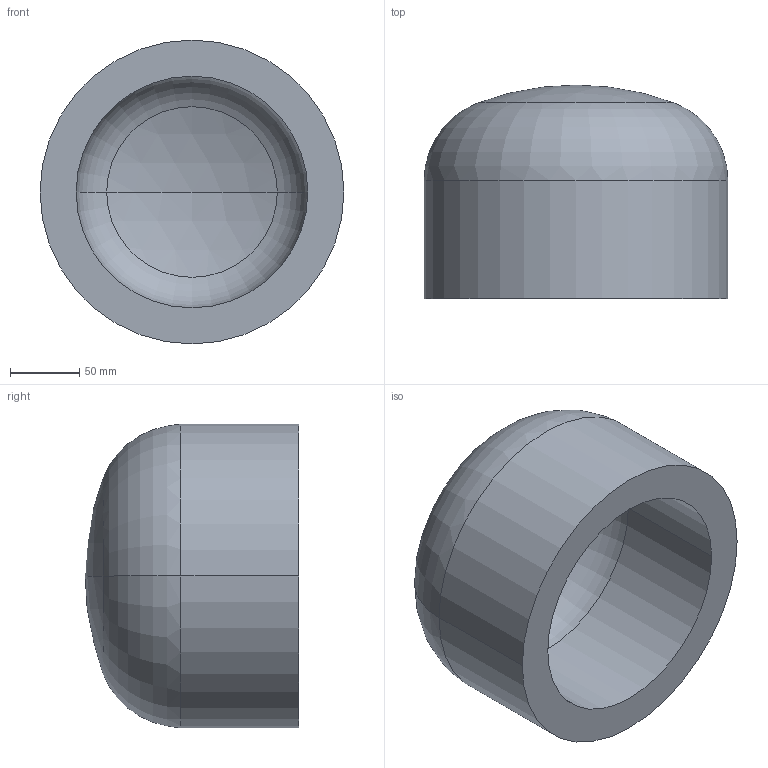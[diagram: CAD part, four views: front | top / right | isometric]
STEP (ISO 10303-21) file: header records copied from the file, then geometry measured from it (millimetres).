
FILE_DESCRIPTION (( 'STEP AP203' ), '1' );
FILE_NAME ('DIN 28013 Korbbogenform_-_Boden DIN 28013 - 219,1 x 85 - I - s=26.step', '2016-07-01T07:42:47', ( '' ), ( '' ), 'SwSTEP 2.0', 'SolidWorks 2013', '' );
FILE_SCHEMA (( 'CONFIG_CONTROL_DESIGN' ));
Length unit declared in the file: millimetre
Products named in the file (1): DIN 28013 Korbbogenform_-_Boden DIN 28013 - 219,1 x 85 - I - s=26
Bounding box: 219.1 x 153.99 x 219.1 mm (x, y, z)
Volume: 2516992.1 mm3; surface area: 210803.3 mm2
Topology: 1 solids, 1 shells, 13 faces, 24 edges, 14 vertices
Faces by surface type: torus 4, cylinder 4, sphere 4, plane 1
Entity records: 407 total; most frequent: DIRECTION 72, CARTESIAN_POINT 52, ORIENTED_EDGE 48, AXIS2_PLACEMENT_3D 34, EDGE_CURVE 24, CIRCLE 20, VERTEX_POINT 14, EDGE_LOOP 14
